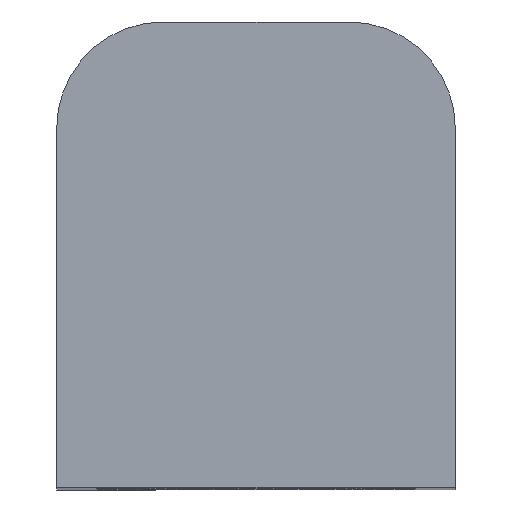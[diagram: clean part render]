
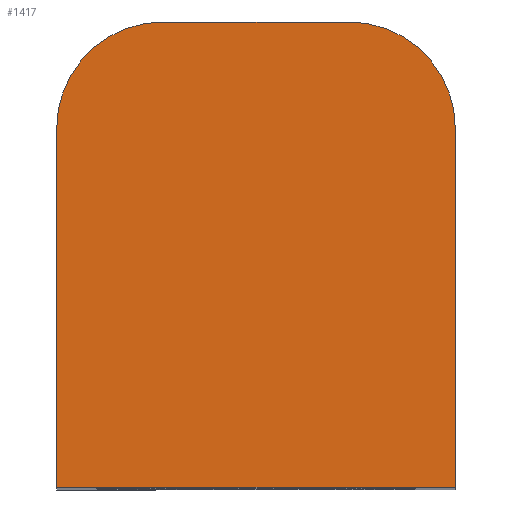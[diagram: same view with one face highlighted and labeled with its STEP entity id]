
A CAD part, top view. The second image highlights one B-rep face of the part: STEP entity #1417.
In plain terms, the highlighted planar face has unit normal (0, 0, 1).
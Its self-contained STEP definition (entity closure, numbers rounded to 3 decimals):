
#228 = CARTESIAN_POINT ( 'NONE',  ( 0., 0., 31.5 ) ) ;
#258 = DIRECTION ( 'NONE',  ( 0., 0., 1. ) ) ;
#274 = DIRECTION ( 'NONE',  ( 1., 0., 0. ) ) ;
#322 = EDGE_CURVE ( 'NONE', #2066, #2682, #3150, .T. ) ;
#412 = EDGE_CURVE ( 'NONE', #631, #3267, #2812, .T. ) ;
#421 = EDGE_CURVE ( 'NONE', #2682, #3267, #2088, .T. ) ;
#436 = ORIENTED_EDGE ( 'NONE', *, *, #2247, .T. ) ;
#500 = EDGE_CURVE ( 'NONE', #2066, #3422, #2549, .T. ) ;
#631 = VERTEX_POINT ( 'NONE', #835 ) ;
#738 = CARTESIAN_POINT ( 'NONE',  ( 7.5, 4.75, 31.5 ) ) ;
#835 = CARTESIAN_POINT ( 'NONE',  ( 7.5, -8.75, 31.5 ) ) ;
#858 = CARTESIAN_POINT ( 'NONE',  ( -7.5, 4.75, 31.5 ) ) ;
#982 = ORIENTED_EDGE ( 'NONE', *, *, #421, .F. ) ;
#1314 = LINE ( 'NONE', #1816, #2153 ) ;
#1328 = VECTOR ( 'NONE', #3074, 1000. ) ;
#1352 = ORIENTED_EDGE ( 'NONE', *, *, #322, .F. ) ;
#1394 = AXIS2_PLACEMENT_3D ( 'NONE', #2963, #2985, #2989 ) ;
#1417 = ADVANCED_FACE ( 'NONE', ( #2951 ), #3318, .T. ) ;
#1606 = LINE ( 'NONE', #2720, #3002 ) ;
#1816 = CARTESIAN_POINT ( 'NONE',  ( 0., -8.75, 31.5 ) ) ;
#1868 = EDGE_CURVE ( 'NONE', #3422, #1925, #1606, .T. ) ;
#1924 = CARTESIAN_POINT ( 'NONE',  ( -3.5, 8.75, 31.5 ) ) ;
#1925 = VERTEX_POINT ( 'NONE', #3172 ) ;
#2008 = ORIENTED_EDGE ( 'NONE', *, *, #500, .T. ) ;
#2066 = VERTEX_POINT ( 'NONE', #1924 ) ;
#2088 = CIRCLE ( 'NONE', #1394, 4. ) ;
#2153 = VECTOR ( 'NONE', #3228, 1000. ) ;
#2247 = EDGE_CURVE ( 'NONE', #1925, #631, #1314, .T. ) ;
#2259 = VECTOR ( 'NONE', #2524, 1000. ) ;
#2338 = AXIS2_PLACEMENT_3D ( 'NONE', #3242, #3367, #3390 ) ;
#2471 = EDGE_LOOP ( 'NONE', ( #1352, #2008, #2659, #436, #2474, #982 ) ) ;
#2474 = ORIENTED_EDGE ( 'NONE', *, *, #412, .T. ) ;
#2524 = DIRECTION ( 'NONE',  ( 1., 0., 0. ) ) ;
#2528 = AXIS2_PLACEMENT_3D ( 'NONE', #228, #258, #274 ) ;
#2549 = CIRCLE ( 'NONE', #2338, 4. ) ;
#2572 = CARTESIAN_POINT ( 'NONE',  ( 0., 8.75, 31.5 ) ) ;
#2659 = ORIENTED_EDGE ( 'NONE', *, *, #1868, .T. ) ;
#2682 = VERTEX_POINT ( 'NONE', #2875 ) ;
#2720 = CARTESIAN_POINT ( 'NONE',  ( -7.5, 0., 31.5 ) ) ;
#2812 = LINE ( 'NONE', #3112, #1328 ) ;
#2875 = CARTESIAN_POINT ( 'NONE',  ( 3.5, 8.75, 31.5 ) ) ;
#2944 = DIRECTION ( 'NONE',  ( 0., -1., 0. ) ) ;
#2951 = FACE_OUTER_BOUND ( 'NONE', #2471, .T. ) ;
#2963 = CARTESIAN_POINT ( 'NONE',  ( 3.5, 4.75, 31.5 ) ) ;
#2985 = DIRECTION ( 'NONE',  ( 0., 0., -1. ) ) ;
#2989 = DIRECTION ( 'NONE',  ( 1., 0., 0. ) ) ;
#3002 = VECTOR ( 'NONE', #2944, 1000. ) ;
#3074 = DIRECTION ( 'NONE',  ( 0., 1., 0. ) ) ;
#3112 = CARTESIAN_POINT ( 'NONE',  ( 7.5, 0., 31.5 ) ) ;
#3150 = LINE ( 'NONE', #2572, #2259 ) ;
#3172 = CARTESIAN_POINT ( 'NONE',  ( -7.5, -8.75, 31.5 ) ) ;
#3228 = DIRECTION ( 'NONE',  ( 1., 0., 0. ) ) ;
#3242 = CARTESIAN_POINT ( 'NONE',  ( -3.5, 4.75, 31.5 ) ) ;
#3267 = VERTEX_POINT ( 'NONE', #738 ) ;
#3318 = PLANE ( 'NONE',  #2528 ) ;
#3367 = DIRECTION ( 'NONE',  ( 0., 0., 1. ) ) ;
#3390 = DIRECTION ( 'NONE',  ( 1., 0., 0. ) ) ;
#3422 = VERTEX_POINT ( 'NONE', #858 ) ;
